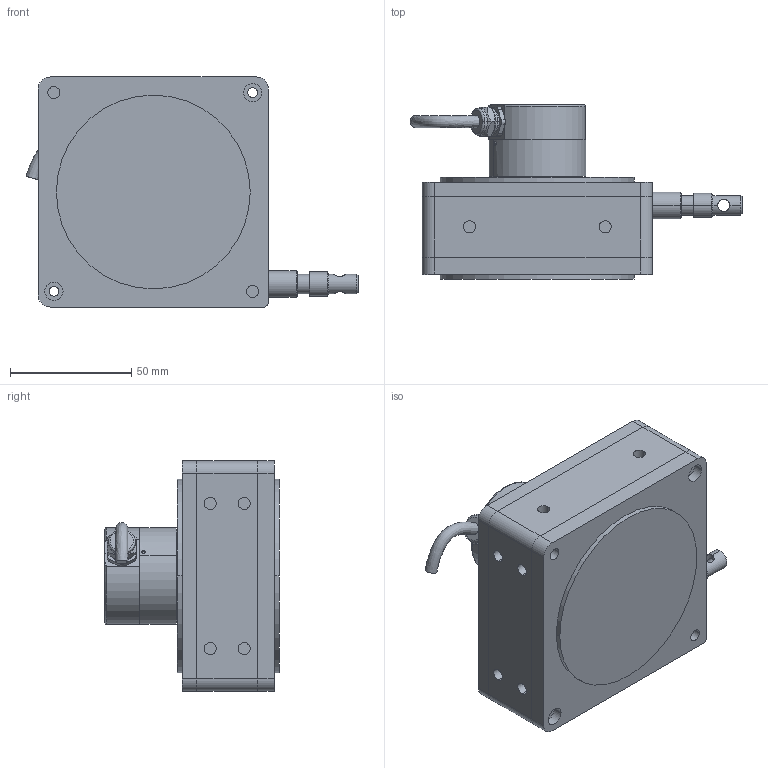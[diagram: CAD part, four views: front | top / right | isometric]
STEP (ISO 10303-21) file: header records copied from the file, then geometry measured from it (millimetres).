
FILE_DESCRIPTION(/* description */ (''),/* implementation_level */ '2;1');
FILE_NAME(/* name */ 'IP68 BRT38 3.5m_4m_5m-数字量 位移传感器 模型_stp.stp',/* time_stamp */ '2023-08-29T10:18:31+08:00',/* author */ (''),/* organization */ (''),/* preprocessor_version */ 'ST-DEVELOPER v16.7',/* originating_system */ 'SIEMENS PLM Software NX 12.0',/* authorisation */ '');
FILE_SCHEMA (('AP203_CONFIGURATION_CONTROLLED_3D_DESIGN_OF_MECHANICAL_PARTS_AND_ASSEMBLIES_MIM_LF { 1 0 10303 403 2 1 2}'));
Length unit declared in the file: millimetre
Products named in the file (1): 290156BC952C4ram
Bounding box: 137.04 x 72 x 95 mm (x, y, z)
Volume: 309210.7 mm3; surface area: 100525.3 mm2
Topology: 14 solids, 16 shells, 433 faces, 1192 edges, 761 vertices
Faces by surface type: cylinder 213, plane 118, torus 53, sphere 26, cone 20, extrusion 2, bspline 1
Full cylindrical faces by diameter (mm): 9 x1, 12 x1, 38 x1, 40 x1, 72 x1, 80 x1
Entity records: 15369 total; most frequent: CARTESIAN_POINT 4341, DIRECTION 2324, ORIENTED_EDGE 2268, EDGE_CURVE 1134, AXIS2_PLACEMENT_3D 1006, VERTEX_POINT 763, CIRCLE 575, EDGE_LOOP 547
